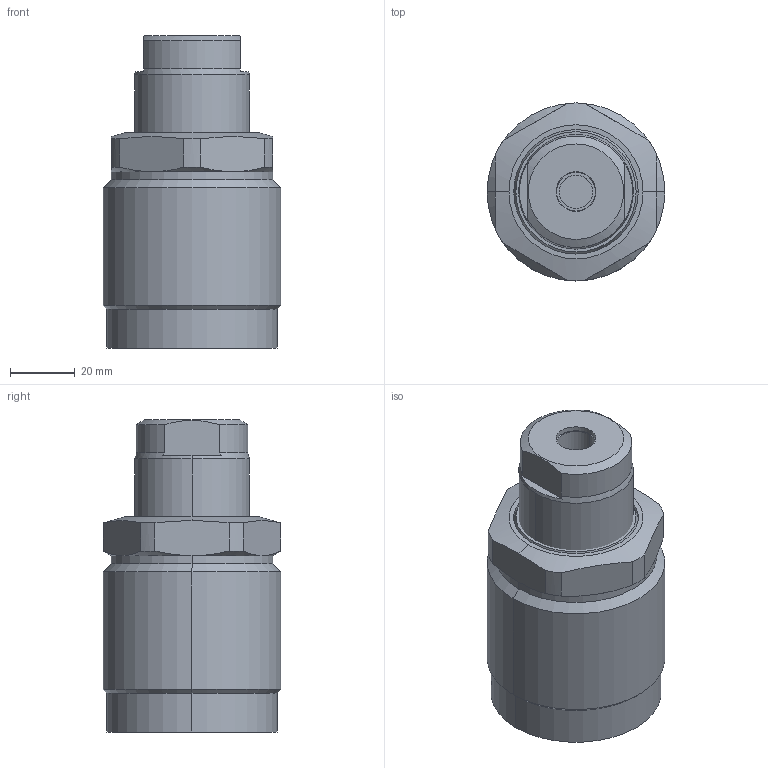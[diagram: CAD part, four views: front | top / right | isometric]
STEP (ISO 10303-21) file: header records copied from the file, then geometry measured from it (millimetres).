
FILE_DESCRIPTION (( 'STEP AP203' ), '1' );
FILE_NAME ('650551-AM.step', '2016-11-02T03:14:55', ( 'wxp' ), ( '' ), 'SwSTEP 2.0', 'SolidWorks 2011', '' );
FILE_SCHEMA (( 'CONFIG_CONTROL_DESIGN' ));
Length unit declared in the file: millimetre
Products named in the file (3): 650551-AM; 葩璃 650551-AM.sldasm-Part-2^650551-AM; 葩璃 650551-AM.sldasm-Part-1^650551-AM
Assembly tree (2 placements, depth 2):
  650551-AM
    葩璃 650551-AM.sldasm-Part-1^650551-AM
    葩璃 650551-AM.sldasm-Part-2^650551-AM
Bounding box: 55 x 55 x 96.5 mm (x, y, z)
Volume: 176904.7 mm3; surface area: 23123.8 mm2
Topology: 2 solids, 2 shells, 83 faces, 184 edges, 111 vertices
Faces by surface type: cylinder 34, cone 22, plane 21, torus 6
Entity records: 2707 total; most frequent: CARTESIAN_POINT 599, DIRECTION 400, ORIENTED_EDGE 364, EDGE_CURVE 182, AXIS2_PLACEMENT_3D 176, VERTEX_POINT 111, EDGE_LOOP 91, CIRCLE 88
